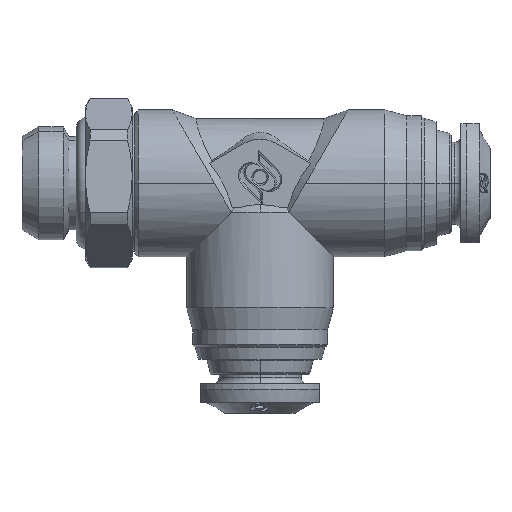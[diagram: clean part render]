
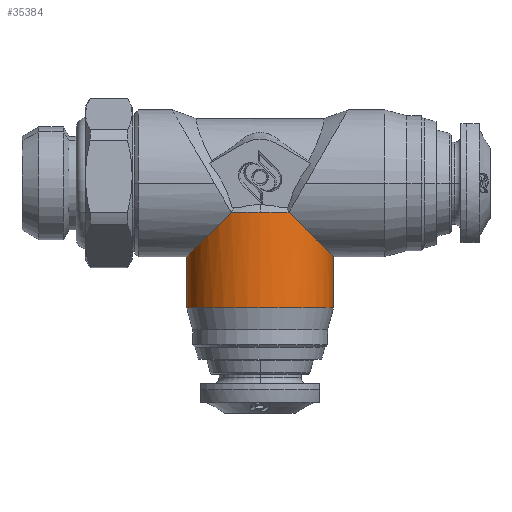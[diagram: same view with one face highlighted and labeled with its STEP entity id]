
A CAD part, top view. The second image highlights one B-rep face of the part: STEP entity #35384.
In plain terms, the highlighted cylindrical face has radius 6.25 mm (diameter 12.5 mm), a partial arc.
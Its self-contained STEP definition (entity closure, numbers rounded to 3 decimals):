
#6774 = CARTESIAN_POINT ( 'NONE',  ( -3.041, 1.699, 6.25 ) ) ;
#6793 = CARTESIAN_POINT ( 'NONE',  ( 3.209, -6.468, 0. ) ) ;
#6794 = CARTESIAN_POINT ( 'NONE',  ( -9.291, -6.468, 0. ) ) ;
#6903 = CARTESIAN_POINT ( 'NONE',  ( -9.291, -2.084, 0. ) ) ;
#6906 = CARTESIAN_POINT ( 'NONE',  ( -5.508, 1.699, 5.742 ) ) ;
#6908 = CARTESIAN_POINT ( 'NONE',  ( 3.209, -2.084, 0. ) ) ;
#8663 = CARTESIAN_POINT ( 'NONE',  ( -3.041, 4.166, 0. ) ) ;
#8664 = DIRECTION ( 'NONE',  ( 0., 1., 0. ) ) ;
#8672 = DIRECTION ( 'NONE',  ( -1., 0., 0. ) ) ;
#10281 = ORIENTED_EDGE ( 'NONE', *, *, #35167, .T. ) ;
#10282 = ORIENTED_EDGE ( 'NONE', *, *, #35202, .T. ) ;
#10283 = ORIENTED_EDGE ( 'NONE', *, *, #35203, .T. ) ;
#10284 = ORIENTED_EDGE ( 'NONE', *, *, #35192, .T. ) ;
#10285 = ORIENTED_EDGE ( 'NONE', *, *, #35204, .T. ) ;
#10286 = ORIENTED_EDGE ( 'NONE', *, *, #35205, .T. ) ;
#10287 = ORIENTED_EDGE ( 'NONE', *, *, #35206, .F. ) ;
#12623 = AXIS2_PLACEMENT_3D ( 'NONE', #34940, #34941, #34942 ) ;
#12633 = AXIS2_PLACEMENT_3D ( 'NONE', #21191, #21192, #21193 ) ;
#12634 = AXIS2_PLACEMENT_3D ( 'NONE', #21242, #21243, #21244 ) ;
#12778 = AXIS2_PLACEMENT_3D ( 'NONE', #8663, #8664, #8672 ) ;
#17655 = VERTEX_POINT ( 'NONE', #21035 ) ;
#21035 = CARTESIAN_POINT ( 'NONE',  ( -0.574, 1.699, 5.742 ) ) ;
#21191 = CARTESIAN_POINT ( 'NONE',  ( -3.041, 1.699, 0. ) ) ;
#21192 = DIRECTION ( 'NONE',  ( 0., -1., 0. ) ) ;
#21193 = DIRECTION ( 'NONE',  ( 0., 0., -1. ) ) ;
#21227 = CARTESIAN_POINT ( 'NONE',  ( 3.209, -2.084, 2.575 ) ) ;
#21228 = CARTESIAN_POINT ( 'NONE',  ( 3.209, -2.084, 0. ) ) ;
#21235 = CARTESIAN_POINT ( 'NONE',  ( 3.209, 4.166, 0. ) ) ;
#21236 = DIRECTION ( 'NONE',  ( 0., 1., 0. ) ) ;
#21238 = CARTESIAN_POINT ( 'NONE',  ( 1.792, -0.667, 4.726 ) ) ;
#21239 = CARTESIAN_POINT ( 'NONE',  ( -0.574, 1.699, 5.742 ) ) ;
#21240 = CARTESIAN_POINT ( 'NONE',  ( -5.508, 1.699, 5.742 ) ) ;
#21241 = CARTESIAN_POINT ( 'NONE',  ( -7.874, -0.667, 4.726 ) ) ;
#21242 = CARTESIAN_POINT ( 'NONE',  ( -3.041, 1.699, 0. ) ) ;
#21243 = DIRECTION ( 'NONE',  ( 0., -1., 0. ) ) ;
#21244 = DIRECTION ( 'NONE',  ( 0., 0., -1. ) ) ;
#21246 = CARTESIAN_POINT ( 'NONE',  ( -9.291, -2.084, 2.575 ) ) ;
#21247 = CARTESIAN_POINT ( 'NONE',  ( -9.291, -2.084, 0. ) ) ;
#21248 = CARTESIAN_POINT ( 'NONE',  ( -9.291, 4.166, 0. ) ) ;
#21249 = DIRECTION ( 'NONE',  ( 0., 1., 0. ) ) ;
#24515 =( BOUNDED_CURVE ( )  B_SPLINE_CURVE ( 3, ( #21228, #21227, #21238, #21239 ),
 .UNSPECIFIED., .F., .T. ) 
 B_SPLINE_CURVE_WITH_KNOTS ( ( 4, 4 ),
 ( 3.142, 4.307 ),
 .UNSPECIFIED. ) 
 CURVE ( )  GEOMETRIC_REPRESENTATION_ITEM ( )  RATIONAL_B_SPLINE_CURVE ( ( 1., 0.89, 0.89, 1. ) ) 
 REPRESENTATION_ITEM ( '' )  );
#24516 =( BOUNDED_CURVE ( )  B_SPLINE_CURVE ( 3, ( #21240, #21241, #21246, #21247 ),
 .UNSPECIFIED., .F., .T. ) 
 B_SPLINE_CURVE_WITH_KNOTS ( ( 4, 4 ),
 ( 5.118, 6.283 ),
 .UNSPECIFIED. ) 
 CURVE ( )  GEOMETRIC_REPRESENTATION_ITEM ( )  RATIONAL_B_SPLINE_CURVE ( ( 1., 0.89, 0.89, 1. ) ) 
 REPRESENTATION_ITEM ( '' )  );
#26982 = CIRCLE ( 'NONE', #12623, 6.25 ) ;
#27021 = CIRCLE ( 'NONE', #12633, 6.25 ) ;
#27023 = LINE ( 'NONE', #21235, #27027 ) ;
#27027 = VECTOR ( 'NONE', #21236, 1000. ) ;
#27028 = CIRCLE ( 'NONE', #12634, 6.25 ) ;
#27029 = LINE ( 'NONE', #21248, #27031 ) ;
#27031 = VECTOR ( 'NONE', #21249, 1000. ) ;
#27217 = FACE_OUTER_BOUND ( 'NONE', #36711, .T. ) ;
#27225 = CYLINDRICAL_SURFACE ( 'NONE', #12778, 6.25 ) ;
#34940 = CARTESIAN_POINT ( 'NONE',  ( -3.041, -6.468, 0. ) ) ;
#34941 = DIRECTION ( 'NONE',  ( 0., 1., 0. ) ) ;
#34942 = DIRECTION ( 'NONE',  ( -1., 0., 0. ) ) ;
#35167 = EDGE_CURVE ( 'NONE', #35847, #35846, #26982, .T. ) ;
#35192 = EDGE_CURVE ( 'NONE', #17655, #35823, #27021, .T. ) ;
#35202 = EDGE_CURVE ( 'NONE', #35846, #35961, #27023, .T. ) ;
#35203 = EDGE_CURVE ( 'NONE', #35961, #17655, #24515, .T. ) ;
#35204 = EDGE_CURVE ( 'NONE', #35823, #35959, #27028, .T. ) ;
#35205 = EDGE_CURVE ( 'NONE', #35959, #35956, #24516, .T. ) ;
#35206 = EDGE_CURVE ( 'NONE', #35847, #35956, #27029, .T. ) ;
#35384 = ADVANCED_FACE ( 'NONE', ( #27217 ), #27225, .T. ) ;
#35823 = VERTEX_POINT ( 'NONE', #6774 ) ;
#35846 = VERTEX_POINT ( 'NONE', #6793 ) ;
#35847 = VERTEX_POINT ( 'NONE', #6794 ) ;
#35956 = VERTEX_POINT ( 'NONE', #6903 ) ;
#35959 = VERTEX_POINT ( 'NONE', #6906 ) ;
#35961 = VERTEX_POINT ( 'NONE', #6908 ) ;
#36711 = EDGE_LOOP ( 'NONE', ( #10281, #10282, #10283, #10284, #10285, #10286, #10287 ) ) ;
